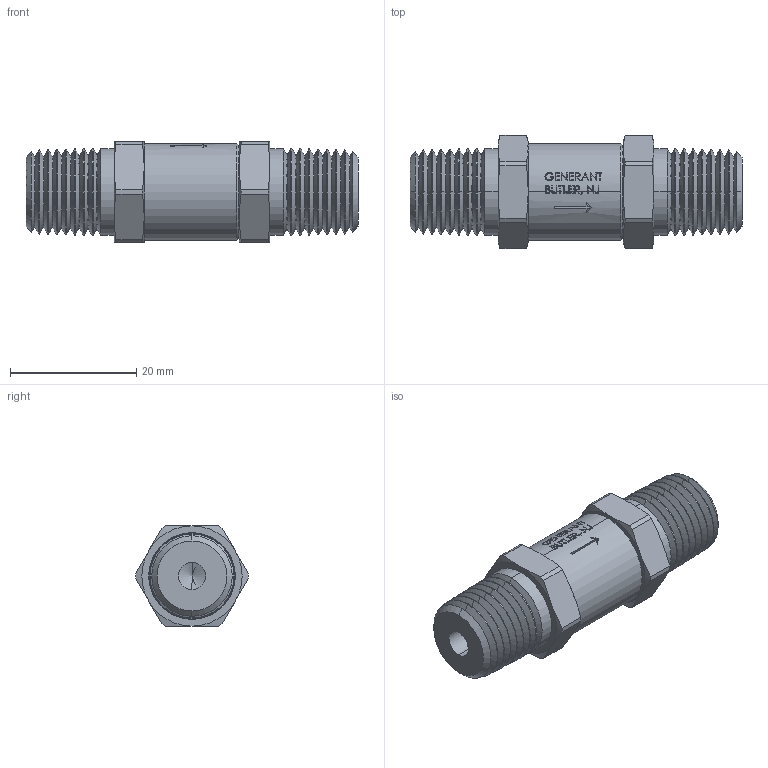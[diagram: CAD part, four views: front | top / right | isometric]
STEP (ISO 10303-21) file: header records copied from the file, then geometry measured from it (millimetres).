
FILE_DESCRIPTION (( 'STEP AP203' ), '1' );
FILE_NAME ('PCV-4P.STEP', '2014-08-21T15:25:44', ( '' ), ( '' ), 'SwSTEP 2.0', 'SolidWorks 2011', '' );
FILE_SCHEMA (( 'CONFIG_CONTROL_DESIGN' ));
Length unit declared in the file: inch
Products named in the file (2): PCV-4P; Part2^PCV-4P_CM
Assembly tree (1 placements, depth 2):
  PCV-4P
    Part2^PCV-4P_CM
Bounding box: 52.6 x 17.91 x 15.88 mm (x, y, z)
Volume: 8201.3 mm3; surface area: 3968 mm2
Topology: 1 solids, 1 shells, 425 faces, 1051 edges, 646 vertices
Faces by surface type: cone 150, plane 148, bspline 68, cylinder 59
Entity records: 16059 total; most frequent: CARTESIAN_POINT 6357, ORIENTED_EDGE 2094, DIRECTION 1814, EDGE_CURVE 1047, AXIS2_PLACEMENT_3D 696, VERTEX_POINT 646, EDGE_LOOP 447, ADVANCED_FACE 425
